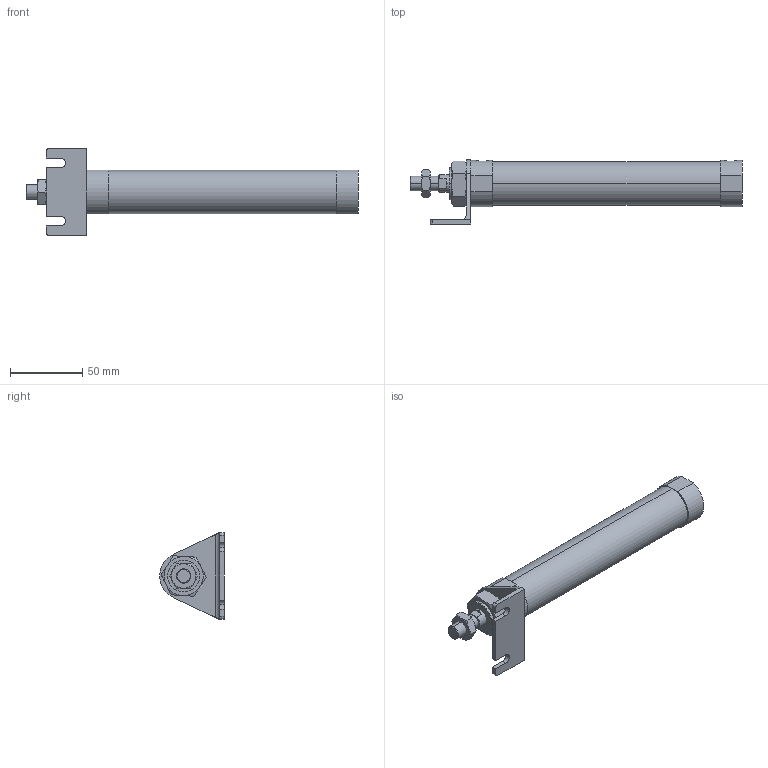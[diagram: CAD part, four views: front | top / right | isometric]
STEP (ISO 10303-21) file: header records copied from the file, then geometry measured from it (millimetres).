
FILE_DESCRIPTION (( 'STEP AP203' ), '1' );
FILE_NAME ('JGND2-25-125-L.STEP', '2016-08-04T02:41:20', ( '' ), ( '' ), 'SwSTEP 2.0', 'SolidWorks 2014', '' );
FILE_SCHEMA (( 'CONFIG_CONTROL_DESIGN' ));
Length unit declared in the file: millimetre
Products named in the file (5): J#2-25-125(P); J#2-25-L; JGND2-25-125-L
Assembly tree (4 placements, depth 2):
  JGND2-25-125-L
    J#2-25-125(P)
    (unnamed)
    (unnamed)
    J#2-25-L
Bounding box: 229 x 44.5 x 60 mm (x, y, z)
Volume: 153105.3 mm3; surface area: 32195.6 mm2
Topology: 4 solids, 4 shells, 115 faces, 268 edges, 162 vertices
Faces by surface type: plane 50, cylinder 33, torus 24, cone 8
Entity records: 4077 total; most frequent: CARTESIAN_POINT 994, DIRECTION 542, ORIENTED_EDGE 528, EDGE_CURVE 264, AXIS2_PLACEMENT_3D 214, VERTEX_POINT 162, EDGE_LOOP 126, ADVANCED_FACE 115
